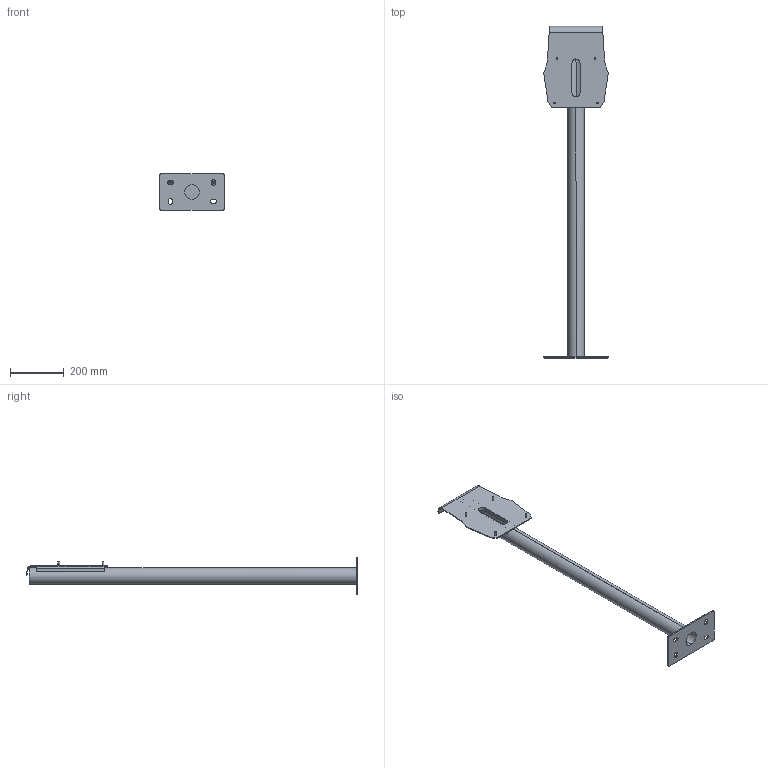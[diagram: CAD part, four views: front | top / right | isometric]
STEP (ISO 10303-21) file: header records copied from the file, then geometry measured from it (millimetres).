
FILE_DESCRIPTION((''),'2;1');
FILE_NAME('STANDFUSS_SW0002','2022-01-05T11:41:37',('hoffmannf'),('MENNEKES'),'CREO PARAMETRIC BY PTC INC, 2019080','CREO PARAMETRIC BY PTC INC, 2019080','');
FILE_SCHEMA(('AUTOMOTIVE_DESIGN { 1 0 10303 214 1 1 1 1 }'));
Length unit declared in the file: millimetre
Products named in the file (1): STANDFUSS_SW0002
Bounding box: 240 x 1230.31 x 135 mm (x, y, z)
Volume: 1074757.9 mm3; surface area: 628005.5 mm2
Topology: 1 solids, 1 shells, 90 faces, 230 edges, 148 vertices
Faces by surface type: plane 40, cylinder 40, cone 8, bspline 2
Entity records: 3386 total; most frequent: CARTESIAN_POINT 735, DIRECTION 484, ORIENTED_EDGE 460, COLOUR_RGB 300, EDGE_CURVE 230, AXIS2_PLACEMENT_3D 174, VERTEX_POINT 148, VECTOR 136
